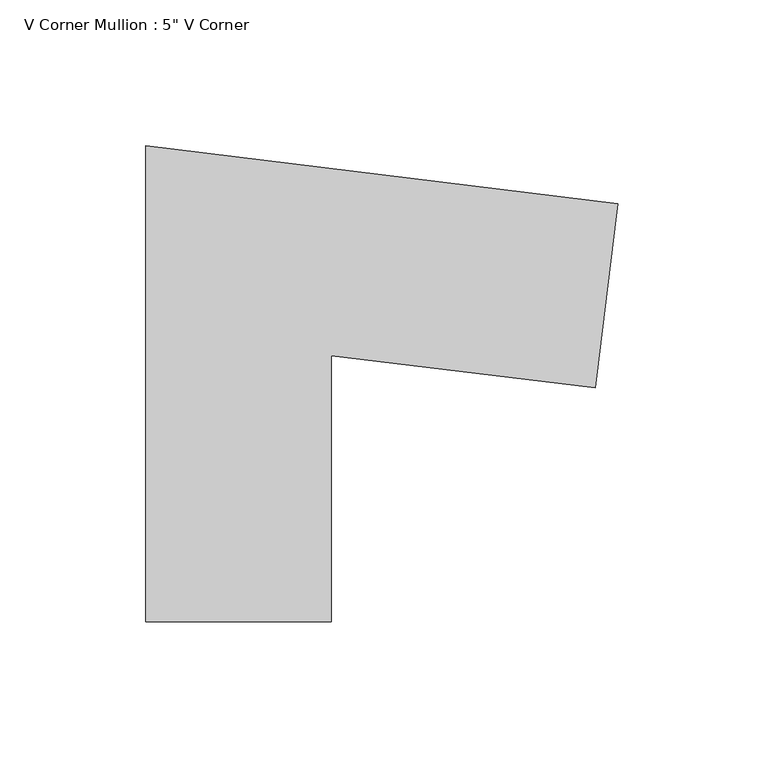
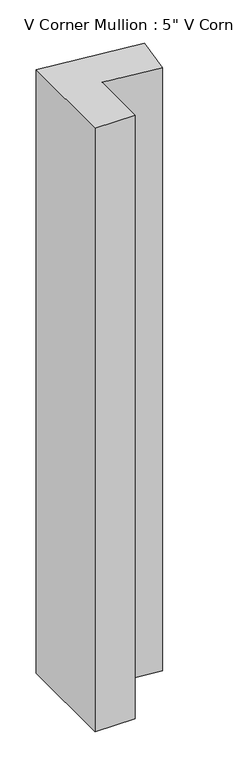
"""IFC4 building model written with IfcOpenShell, lengths in millimetres: member geometry."""

from ifc_helpers import new_model, si_unit, frame, origin, place, context, project, spatial, polyline, outline, extrude, source, transform, mapped, element, save


def member_62aeda4f(model_context):
    return source(origin(), model_context, "Body", "SweptSolid", [
        extrude(outline(polyline([(66.0039553, 16.5092531), (-24.4300543, 27.6131532), (-24.4300543, -63.5), (-87.9300543, -63.5), (-87.9300543, 99.3868468), (73.7426586, 79.5359337), (66.0039553, 16.5092531)])), frame((0.0, 0.0, -1016.0), z_axis=(0.0, 0.0, 1.0), x_axis=(1.0, 0.0, 0.0)), (0.0, 0.0, 1.0), 1016.0),
    ])


if __name__ == "__main__":
    model = new_model("IFC4")
    model_context = context("Model", 3, world=origin())
    ifc_project = project(units=[si_unit("LENGTHUNIT", "METRE", prefix="MILLI")], contexts=[model_context])
    site = spatial("IfcSite", under=ifc_project)
    building = spatial("IfcBuilding", under=site)
    placement = place(None, origin())
    member_shape = member_62aeda4f(model_context)
    element("IfcMember", 1, ObjectType="V Corner Mullion : 5\" V Corner", at=placement, inside=building, context=model_context, shape_type="MappedRepresentation", body=[
        mapped(member_shape, transform((0.0, 0.0, 0.0), x_axis=(1.0, 0.0, 0.0), y_axis=(0.0, 1.0, 0.0), z_axis=(0.0, 0.0, 1.0))),
    ])
    save(model, "model.ifc")
